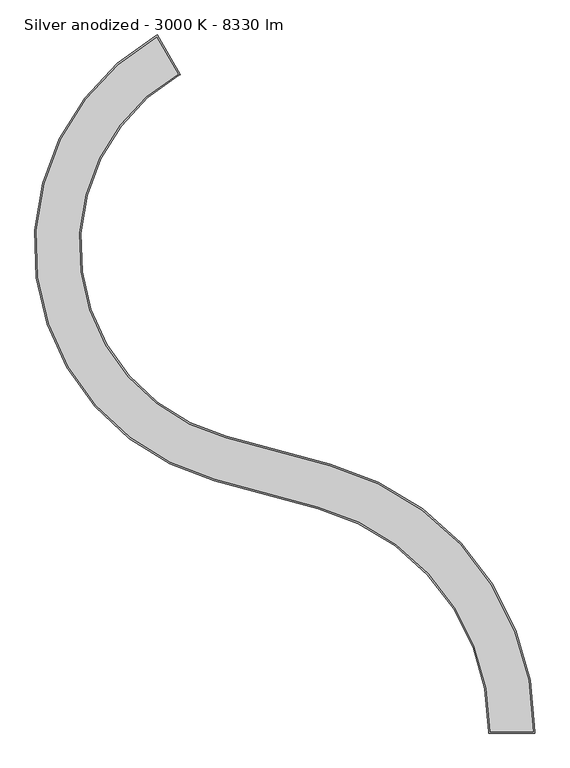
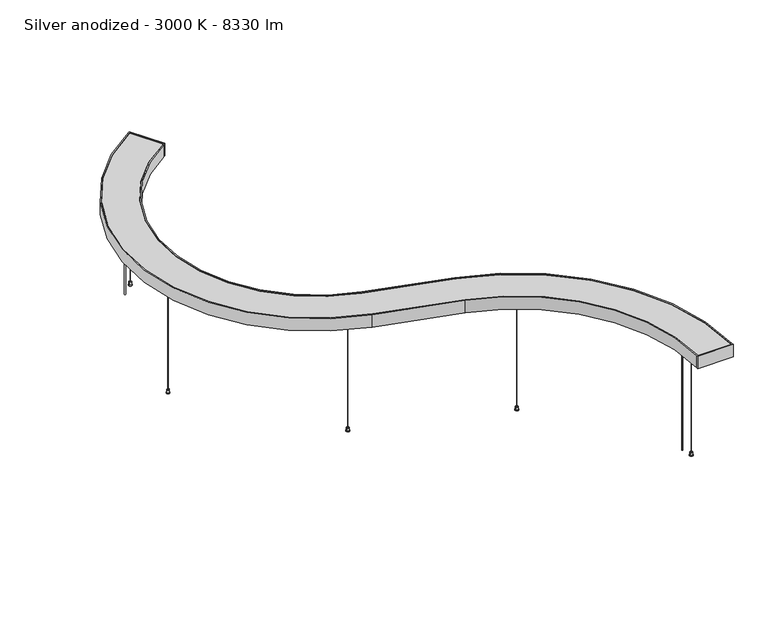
"""IFC4 building model written with IfcOpenShell, lengths in millimetres: light fixture geometry, KLUŚ - MIFOR - MI-SNAKE-04 : Silver anodized - 3000 K - 8330 lm."""

from ifc_helpers import new_model, si_unit, point, frame, frame_2d, origin, origin_with_axes, place, context, project, spatial, polyline, circle_curve, trimmed, segment, composite_curve, outline, extrude, source, transform, mapped, element, save


def silver_anodized_3000_k_8330_lm_0e5ecade(model_context):
    return source(origin(), model_context, "Body", "SweptSolid", [
        extrude(outline(composite_curve([segment(trimmed(circle_curve(frame_2d((-377.3791356, -141.4656241)), 1.75), [point((-375.6291356, -141.4656241))], [point((-379.1291356, -141.4656241))], False, "CARTESIAN"), True, "CONTINUOUS"), segment(trimmed(circle_curve(frame_2d((-377.3791356, -141.4656241)), 1.75), [point((-379.1291356, -141.4656241))], [point((-375.6291356, -141.4656241))], False, "CARTESIAN"), True, "CONTINUOUS")], self_intersect=False)), frame((0.0, 0.0, 500.5), z_axis=(0.0, 0.0, 1.0), x_axis=(1.0, 0.0, 0.0)), (0.0, 0.0, 1.0), 3.5),
        extrude(outline(composite_curve([segment(trimmed(circle_curve(frame_2d((224.4051375, -334.3091632)), 1.75), [point((226.1551375, -334.3091632))], [point((222.6551375, -334.3091632))], False, "CARTESIAN"), True, "CONTINUOUS"), segment(trimmed(circle_curve(frame_2d((224.4051375, -334.3091632)), 1.75), [point((222.6551375, -334.3091632))], [point((226.1551375, -334.3091632))], False, "CARTESIAN"), True, "CONTINUOUS")], self_intersect=False)), frame((0.0, 0.0, 500.5), z_axis=(0.0, 0.0, 1.0), x_axis=(1.0, 0.0, 0.0)), (0.0, 0.0, 1.0), 3.5),
        extrude(outline(composite_curve([segment(trimmed(circle_curve(frame_2d((631.3670888, -903.8545698)), 1.75), [point((633.1170888, -903.8545698))], [point((629.6170888, -903.8545698))], False, "CARTESIAN"), True, "CONTINUOUS"), segment(trimmed(circle_curve(frame_2d((631.3670888, -903.8545698)), 1.75), [point((629.6170888, -903.8545698))], [point((633.1170888, -903.8545698))], False, "CARTESIAN"), True, "CONTINUOUS")], self_intersect=False)), frame((0.0, 0.0, 500.5), z_axis=(0.0, 0.0, 1.0), x_axis=(1.0, 0.0, 0.0)), (0.0, 0.0, 1.0), 3.5),
        extrude(outline(composite_curve([segment(trimmed(circle_curve(frame_2d((-825.2583753, 396.4973734)), 1.75), [point((-823.5083753, 396.4973734))], [point((-827.0083753, 396.4973734))], False, "CARTESIAN"), True, "CONTINUOUS"), segment(trimmed(circle_curve(frame_2d((-825.2583753, 396.4973734)), 1.75), [point((-827.0083753, 396.4973734))], [point((-823.5083753, 396.4973734))], False, "CARTESIAN"), True, "CONTINUOUS")], self_intersect=False)), frame((0.0, 0.0, 500.5), z_axis=(0.0, 0.0, 1.0), x_axis=(1.0, 0.0, 0.0)), (0.0, 0.0, 1.0), 3.5),
        extrude(outline(composite_curve([segment(trimmed(circle_curve(frame_2d((-601.8264693, 1059.8812618)), 1.75), [point((-600.0764693, 1059.8812618))], [point((-603.5764693, 1059.8812618))], False, "CARTESIAN"), True, "CONTINUOUS"), segment(trimmed(circle_curve(frame_2d((-601.8264693, 1059.8812618)), 1.75), [point((-603.5764693, 1059.8812618))], [point((-600.0764693, 1059.8812618))], False, "CARTESIAN"), True, "CONTINUOUS")], self_intersect=False)), frame((0.0, 0.0, 500.5), z_axis=(0.0, 0.0, 1.0), x_axis=(1.0, 0.0, 0.0)), (0.0, 0.0, 1.0), 3.5),
        extrude(outline(composite_curve([segment(trimmed(circle_curve(frame_2d((-377.3791356, -141.4656241)), 5.0), [point((-372.3791356, -141.4656241))], [point((-382.3791356, -141.4656241))], False, "CARTESIAN"), True, "CONTINUOUS"), segment(trimmed(circle_curve(frame_2d((-377.3791356, -141.4656241)), 5.0), [point((-382.3791356, -141.4656241))], [point((-372.3791356, -141.4656241))], False, "CARTESIAN"), True, "CONTINUOUS")], self_intersect=False)), frame((0.0, 0.0, 3.0), z_axis=(0.0, 0.0, 1.0), x_axis=(1.0, 0.0, 0.0)), (0.0, 0.0, 1.0), 12.0),
        extrude(outline(composite_curve([segment(trimmed(circle_curve(frame_2d((-825.2583753, 396.4973734)), 5.0), [point((-820.2583753, 396.4973734))], [point((-830.2583753, 396.4973734))], False, "CARTESIAN"), True, "CONTINUOUS"), segment(trimmed(circle_curve(frame_2d((-825.2583753, 396.4973734)), 5.0), [point((-830.2583753, 396.4973734))], [point((-820.2583753, 396.4973734))], False, "CARTESIAN"), True, "CONTINUOUS")], self_intersect=False)), frame((0.0, 0.0, 3.0), z_axis=(0.0, 0.0, 1.0), x_axis=(1.0, 0.0, 0.0)), (0.0, 0.0, 1.0), 12.0),
        extrude(outline(composite_curve([segment(trimmed(circle_curve(frame_2d((-601.8264693, 1059.8812618)), 5.0), [point((-596.8264693, 1059.8812618))], [point((-606.8264693, 1059.8812618))], False, "CARTESIAN"), True, "CONTINUOUS"), segment(trimmed(circle_curve(frame_2d((-601.8264693, 1059.8812618)), 5.0), [point((-606.8264693, 1059.8812618))], [point((-596.8264693, 1059.8812618))], False, "CARTESIAN"), True, "CONTINUOUS")], self_intersect=False)), frame((0.0, 0.0, 3.0), z_axis=(0.0, 0.0, 1.0), x_axis=(1.0, 0.0, 0.0)), (0.0, 0.0, 1.0), 12.0),
        extrude(outline(composite_curve([segment(trimmed(circle_curve(frame_2d((224.4051375, -334.3091632)), 5.0), [point((229.4051375, -334.3091632))], [point((219.4051375, -334.3091632))], False, "CARTESIAN"), True, "CONTINUOUS"), segment(trimmed(circle_curve(frame_2d((224.4051375, -334.3091632)), 5.0), [point((219.4051375, -334.3091632))], [point((229.4051375, -334.3091632))], False, "CARTESIAN"), True, "CONTINUOUS")], self_intersect=False)), frame((0.0, 0.0, 3.0), z_axis=(0.0, 0.0, 1.0), x_axis=(1.0, 0.0, 0.0)), (0.0, 0.0, 1.0), 12.0),
        extrude(outline(composite_curve([segment(trimmed(circle_curve(frame_2d((631.3670888, -903.8545698)), 5.0), [point((636.3670888, -903.8545698))], [point((626.3670888, -903.8545698))], False, "CARTESIAN"), True, "CONTINUOUS"), segment(trimmed(circle_curve(frame_2d((631.3670888, -903.8545698)), 5.0), [point((626.3670888, -903.8545698))], [point((636.3670888, -903.8545698))], False, "CARTESIAN"), True, "CONTINUOUS")], self_intersect=False)), frame((0.0, 0.0, 3.0), z_axis=(0.0, 0.0, 1.0), x_axis=(1.0, 0.0, 0.0)), (0.0, 0.0, 1.0), 12.0),
        extrude(outline(composite_curve([segment(trimmed(circle_curve(frame_2d((620.2958522, -857.8919727)), 2.5), [point((622.7958522, -857.8919727))], [point((617.7958522, -857.8919727))], False, "CARTESIAN"), True, "CONTINUOUS"), segment(trimmed(circle_curve(frame_2d((620.2958522, -857.8919727)), 2.5), [point((617.7958522, -857.8919727))], [point((622.7958522, -857.8919727))], False, "CARTESIAN"), True, "CONTINUOUS")], self_intersect=False)), origin_with_axes(), (0.0, 0.0, 1.0), 516.0),
        extrude(outline(composite_curve([segment(trimmed(circle_curve(frame_2d((-647.7527813, 1018.929529)), 2.5), [point((-645.2527813, 1018.929529))], [point((-650.2527813, 1018.929529))], False, "CARTESIAN"), True, "CONTINUOUS"), segment(trimmed(circle_curve(frame_2d((-647.7527813, 1018.929529)), 2.5), [point((-650.2527813, 1018.929529))], [point((-645.2527813, 1018.929529))], False, "CARTESIAN"), True, "CONTINUOUS")], self_intersect=False)), origin_with_axes(), (0.0, 0.0, 1.0), 516.0),
        extrude(outline(composite_curve([segment(polyline([(-513.7121029, 1214.6627023), (-443.7121029, 1093.4191458)]), True, "CONTINUOUS"), segment(trimmed(circle_curve(frame_2d((-119.9621029, 532.6676969)), 647.5), [point((-443.7121029, 1093.4191458))], [point((-288.2076701, -92.5919925))], True, "CARTESIAN"), True, "CONTINUOUS"), segment(polyline([(-288.2076701, -92.5919925), (50.6616992, -183.7753364)]), True, "CONTINUOUS"), segment(trimmed(circle_curve(frame_2d((-182.679846, -1050.9545698)), 898.024554), [point((50.6616992, -183.7753364))], [point((715.3447081, -1050.9545698))], False, "CARTESIAN"), True, "CONTINUOUS"), segment(polyline([(715.3447081, -1050.9545698), (575.3447081, -1050.9545698)]), True, "CONTINUOUS"), segment(trimmed(circle_curve(frame_2d((-182.679846, -1050.9545698)), 758.024554), [point((575.3447081, -1050.9545698))], [point((14.2842792, -318.9666205))], True, "CARTESIAN"), True, "CONTINUOUS"), segment(polyline([(14.2842792, -318.9666205), (-324.5850901, -227.7832767)]), True, "CONTINUOUS"), segment(trimmed(circle_curve(frame_2d((-119.9621029, 532.6676969)), 787.5), [point((-324.5850901, -227.7832767))], [point((-513.7121029, 1214.6627023))], False, "CARTESIAN"), True, "CONTINUOUS")], self_intersect=False)), frame((0.0, 0.0, 516.0), z_axis=(0.0, 0.0, 1.0), x_axis=(1.0, 0.0, 0.0)), (0.0, 0.0, 1.0), 2.0),
        extrude(outline(composite_curve([segment(polyline([(-513.7121029, 1214.6627023), (-443.7121029, 1093.4191458)]), True, "CONTINUOUS"), segment(trimmed(circle_curve(frame_2d((-119.9621029, 532.6676969)), 647.5), [point((-443.7121029, 1093.4191458))], [point((-288.2076701, -92.5919925))], True, "CARTESIAN"), True, "CONTINUOUS"), segment(polyline([(-288.2076701, -92.5919925), (50.6616992, -183.7753364)]), True, "CONTINUOUS"), segment(trimmed(circle_curve(frame_2d((-182.679846, -1050.9545698)), 898.024554), [point((50.6616992, -183.7753364))], [point((715.3447081, -1050.9545698))], False, "CARTESIAN"), True, "CONTINUOUS"), segment(polyline([(715.3447081, -1050.9545698), (575.3447081, -1050.9545698)]), True, "CONTINUOUS"), segment(trimmed(circle_curve(frame_2d((-182.679846, -1050.9545698)), 758.024554), [point((575.3447081, -1050.9545698))], [point((14.2842792, -318.9666205))], True, "CARTESIAN"), True, "CONTINUOUS"), segment(polyline([(14.2842792, -318.9666205), (-324.5850901, -227.7832767)]), True, "CONTINUOUS"), segment(trimmed(circle_curve(frame_2d((-119.9621029, 532.6676969)), 787.5), [point((-324.5850901, -227.7832767))], [point((-513.7121029, 1214.6627023))], False, "CARTESIAN"), True, "CONTINUOUS")], self_intersect=False)), frame((0.0, 0.0, 551.0), z_axis=(0.0, 0.0, 1.0), x_axis=(1.0, 0.0, 0.0)), (0.0, 0.0, 1.0), 2.0),
        extrude(outline(composite_curve([segment(polyline([(-286.9084766, -87.7637323), (51.9608928, -178.9470762)]), True, "CONTINUOUS"), segment(trimmed(circle_curve(frame_2d((-182.679846, -1050.9545698)), 903.024554), [point((51.9608928, -178.9470762))], [point((720.3447081, -1050.9545698))], False, "CARTESIAN"), True, "CONTINUOUS"), segment(polyline([(720.3447081, -1050.9545698), (720.3447081, -1055.9545698), (570.3447081, -1055.9545698), (570.3447081, -1050.9545698)]), True, "CONTINUOUS"), segment(trimmed(circle_curve(frame_2d((-182.679846, -1050.9545698)), 753.024554), [point((570.3447081, -1050.9545698))], [point((12.9850857, -323.7948807))], True, "CARTESIAN"), True, "CONTINUOUS"), segment(polyline([(12.9850857, -323.7948807), (-325.8842836, -232.6115368)]), True, "CONTINUOUS"), segment(trimmed(circle_curve(frame_2d((-119.9621029, 532.6676969)), 792.5), [point((-325.8842836, -232.6115368))], [point((-516.2121029, 1218.9928294))], False, "CARTESIAN"), True, "CONTINUOUS"), segment(polyline([(-516.2121029, 1218.9928294), (-511.8819759, 1221.4928294), (-436.8819759, 1091.5890188), (-441.2121029, 1089.0890188)]), True, "CONTINUOUS"), segment(trimmed(circle_curve(frame_2d((-119.9621029, 532.6676969)), 642.5), [point((-441.2121029, 1089.0890188))], [point((-286.9084766, -87.7637323))], True, "CARTESIAN"), True, "CONTINUOUS")], self_intersect=False), holes=[composite_curve([segment(trimmed(circle_curve(frame_2d((-119.9621029, 532.6676969)), 787.5), [point((-513.7121029, 1214.6627023))], [point((-324.5850901, -227.7832767))], True, "CARTESIAN"), True, "CONTINUOUS"), segment(polyline([(-324.5850901, -227.7832767), (14.2842792, -318.9666205)]), True, "CONTINUOUS"), segment(trimmed(circle_curve(frame_2d((-182.679846, -1050.9545698)), 758.024554), [point((14.2842792, -318.9666205))], [point((575.3447081, -1050.9545698))], False, "CARTESIAN"), True, "CONTINUOUS"), segment(polyline([(575.3447081, -1050.9545698), (715.3447081, -1050.9545698)]), True, "CONTINUOUS"), segment(trimmed(circle_curve(frame_2d((-182.679846, -1050.9545698)), 898.024554), [point((715.3447081, -1050.9545698))], [point((50.6616992, -183.7753364))], True, "CARTESIAN"), True, "CONTINUOUS"), segment(polyline([(50.6616992, -183.7753364), (-288.2076701, -92.5919925)]), True, "CONTINUOUS"), segment(trimmed(circle_curve(frame_2d((-119.9621029, 532.6676969)), 647.5), [point((-288.2076701, -92.5919925))], [point((-443.7121029, 1093.4191458))], False, "CARTESIAN"), True, "CONTINUOUS"), segment(polyline([(-443.7121029, 1093.4191458), (-513.7121029, 1214.6627023)]), True, "CONTINUOUS")], self_intersect=False)]), frame((0.0, 0.0, 500.0), z_axis=(0.0, 0.0, 1.0), x_axis=(1.0, 0.0, 0.0)), (0.0, 0.0, 1.0), 55.0),
        extrude(outline(composite_curve([segment(trimmed(circle_curve(frame_2d((-377.3791356, -141.4656241)), 0.5), [point((-376.8791356, -141.4656241))], [point((-377.8791356, -141.4656241))], False, "CARTESIAN"), True, "CONTINUOUS"), segment(trimmed(circle_curve(frame_2d((-377.3791356, -141.4656241)), 0.5), [point((-377.8791356, -141.4656241))], [point((-376.8791356, -141.4656241))], False, "CARTESIAN"), True, "CONTINUOUS")], self_intersect=False)), frame((0.0, 0.0, 15.0), z_axis=(0.0, 0.0, 1.0), x_axis=(1.0, 0.0, 0.0)), (0.0, 0.0, 1.0), 485.5),
        extrude(outline(composite_curve([segment(trimmed(circle_curve(frame_2d((224.4051375, -334.3091632)), 0.5), [point((224.9051375, -334.3091632))], [point((223.9051375, -334.3091632))], False, "CARTESIAN"), True, "CONTINUOUS"), segment(trimmed(circle_curve(frame_2d((224.4051375, -334.3091632)), 0.5), [point((223.9051375, -334.3091632))], [point((224.9051375, -334.3091632))], False, "CARTESIAN"), True, "CONTINUOUS")], self_intersect=False)), frame((0.0, 0.0, 15.0), z_axis=(0.0, 0.0, 1.0), x_axis=(1.0, 0.0, 0.0)), (0.0, 0.0, 1.0), 485.5),
        extrude(outline(composite_curve([segment(trimmed(circle_curve(frame_2d((631.3670888, -903.8545698)), 0.5), [point((631.8670888, -903.8545698))], [point((630.8670888, -903.8545698))], False, "CARTESIAN"), True, "CONTINUOUS"), segment(trimmed(circle_curve(frame_2d((631.3670888, -903.8545698)), 0.5), [point((630.8670888, -903.8545698))], [point((631.8670888, -903.8545698))], False, "CARTESIAN"), True, "CONTINUOUS")], self_intersect=False)), frame((0.0, 0.0, 15.0), z_axis=(0.0, 0.0, 1.0), x_axis=(1.0, 0.0, 0.0)), (0.0, 0.0, 1.0), 485.5),
        extrude(outline(composite_curve([segment(trimmed(circle_curve(frame_2d((-825.2583753, 396.4973734)), 0.5), [point((-824.7583753, 396.4973734))], [point((-825.7583753, 396.4973734))], False, "CARTESIAN"), True, "CONTINUOUS"), segment(trimmed(circle_curve(frame_2d((-825.2583753, 396.4973734)), 0.5), [point((-825.7583753, 396.4973734))], [point((-824.7583753, 396.4973734))], False, "CARTESIAN"), True, "CONTINUOUS")], self_intersect=False)), frame((0.0, 0.0, 15.0), z_axis=(0.0, 0.0, 1.0), x_axis=(1.0, 0.0, 0.0)), (0.0, 0.0, 1.0), 485.5),
        extrude(outline(composite_curve([segment(trimmed(circle_curve(frame_2d((-601.8264693, 1059.8812618)), 0.5), [point((-601.3264693, 1059.8812618))], [point((-602.3264693, 1059.8812618))], False, "CARTESIAN"), True, "CONTINUOUS"), segment(trimmed(circle_curve(frame_2d((-601.8264693, 1059.8812618)), 0.5), [point((-602.3264693, 1059.8812618))], [point((-601.3264693, 1059.8812618))], False, "CARTESIAN"), True, "CONTINUOUS")], self_intersect=False)), frame((0.0, 0.0, 15.0), z_axis=(0.0, 0.0, 1.0), x_axis=(1.0, 0.0, 0.0)), (0.0, 0.0, 1.0), 485.5),
        extrude(outline(composite_curve([segment(trimmed(circle_curve(frame_2d((631.3670888, -903.8545698)), 4.0), [point((635.3670888, -903.8545698))], [point((627.3670888, -903.8545698))], False, "CARTESIAN"), True, "CONTINUOUS"), segment(trimmed(circle_curve(frame_2d((631.3670888, -903.8545698)), 4.0), [point((627.3670888, -903.8545698))], [point((635.3670888, -903.8545698))], False, "CARTESIAN"), True, "CONTINUOUS")], self_intersect=False)), frame((0.0, 0.0, 504.0), z_axis=(0.0, 0.0, 1.0), x_axis=(1.0, 0.0, 0.0)), (0.0, 0.0, 1.0), 12.0),
        extrude(outline(composite_curve([segment(trimmed(circle_curve(frame_2d((224.4051375, -334.3091632)), 4.0), [point((228.4051375, -334.3091632))], [point((220.4051375, -334.3091632))], False, "CARTESIAN"), True, "CONTINUOUS"), segment(trimmed(circle_curve(frame_2d((224.4051375, -334.3091632)), 4.0), [point((220.4051375, -334.3091632))], [point((228.4051375, -334.3091632))], False, "CARTESIAN"), True, "CONTINUOUS")], self_intersect=False)), frame((0.0, 0.0, 504.0), z_axis=(0.0, 0.0, 1.0), x_axis=(1.0, 0.0, 0.0)), (0.0, 0.0, 1.0), 12.0),
        extrude(outline(composite_curve([segment(trimmed(circle_curve(frame_2d((-377.3791356, -141.4656241)), 4.0), [point((-373.3791356, -141.4656241))], [point((-381.3791356, -141.4656241))], False, "CARTESIAN"), True, "CONTINUOUS"), segment(trimmed(circle_curve(frame_2d((-377.3791356, -141.4656241)), 4.0), [point((-381.3791356, -141.4656241))], [point((-373.3791356, -141.4656241))], False, "CARTESIAN"), True, "CONTINUOUS")], self_intersect=False)), frame((0.0, 0.0, 504.0), z_axis=(0.0, 0.0, 1.0), x_axis=(1.0, 0.0, 0.0)), (0.0, 0.0, 1.0), 12.0),
        extrude(outline(composite_curve([segment(trimmed(circle_curve(frame_2d((-825.2583753, 396.4973734)), 4.0), [point((-821.2583753, 396.4973734))], [point((-829.2583753, 396.4973734))], False, "CARTESIAN"), True, "CONTINUOUS"), segment(trimmed(circle_curve(frame_2d((-825.2583753, 396.4973734)), 4.0), [point((-829.2583753, 396.4973734))], [point((-821.2583753, 396.4973734))], False, "CARTESIAN"), True, "CONTINUOUS")], self_intersect=False)), frame((0.0, 0.0, 504.0), z_axis=(0.0, 0.0, 1.0), x_axis=(1.0, 0.0, 0.0)), (0.0, 0.0, 1.0), 12.0),
        extrude(outline(composite_curve([segment(trimmed(circle_curve(frame_2d((-601.8264693, 1059.8812618)), 4.0), [point((-597.8264693, 1059.8812618))], [point((-605.8264693, 1059.8812618))], False, "CARTESIAN"), True, "CONTINUOUS"), segment(trimmed(circle_curve(frame_2d((-601.8264693, 1059.8812618)), 4.0), [point((-605.8264693, 1059.8812618))], [point((-597.8264693, 1059.8812618))], False, "CARTESIAN"), True, "CONTINUOUS")], self_intersect=False)), frame((0.0, 0.0, 504.0), z_axis=(0.0, 0.0, 1.0), x_axis=(1.0, 0.0, 0.0)), (0.0, 0.0, 1.0), 12.0),
        extrude(outline(composite_curve([segment(trimmed(circle_curve(frame_2d((-377.3791356, -141.4656241)), 7.0), [point((-370.3791356, -141.4656241))], [point((-384.3791356, -141.4656241))], False, "CARTESIAN"), True, "CONTINUOUS"), segment(trimmed(circle_curve(frame_2d((-377.3791356, -141.4656241)), 7.0), [point((-384.3791356, -141.4656241))], [point((-370.3791356, -141.4656241))], False, "CARTESIAN"), True, "CONTINUOUS")], self_intersect=False)), origin_with_axes(), (0.0, 0.0, 1.0), 3.0),
        extrude(outline(composite_curve([segment(trimmed(circle_curve(frame_2d((224.4051375, -334.3091632)), 7.0), [point((231.4051375, -334.3091632))], [point((217.4051375, -334.3091632))], False, "CARTESIAN"), True, "CONTINUOUS"), segment(trimmed(circle_curve(frame_2d((224.4051375, -334.3091632)), 7.0), [point((217.4051375, -334.3091632))], [point((231.4051375, -334.3091632))], False, "CARTESIAN"), True, "CONTINUOUS")], self_intersect=False)), origin_with_axes(), (0.0, 0.0, 1.0), 3.0),
        extrude(outline(composite_curve([segment(trimmed(circle_curve(frame_2d((631.3670888, -903.8545698)), 7.0), [point((638.3670888, -903.8545698))], [point((624.3670888, -903.8545698))], False, "CARTESIAN"), True, "CONTINUOUS"), segment(trimmed(circle_curve(frame_2d((631.3670888, -903.8545698)), 7.0), [point((624.3670888, -903.8545698))], [point((638.3670888, -903.8545698))], False, "CARTESIAN"), True, "CONTINUOUS")], self_intersect=False)), origin_with_axes(), (0.0, 0.0, 1.0), 3.0),
        extrude(outline(composite_curve([segment(trimmed(circle_curve(frame_2d((-825.2583753, 396.4973734)), 7.0), [point((-818.2583753, 396.4973734))], [point((-832.2583753, 396.4973734))], False, "CARTESIAN"), True, "CONTINUOUS"), segment(trimmed(circle_curve(frame_2d((-825.2583753, 396.4973734)), 7.0), [point((-832.2583753, 396.4973734))], [point((-818.2583753, 396.4973734))], False, "CARTESIAN"), True, "CONTINUOUS")], self_intersect=False)), origin_with_axes(), (0.0, 0.0, 1.0), 3.0),
        extrude(outline(composite_curve([segment(trimmed(circle_curve(frame_2d((-601.8264693, 1059.8812618)), 7.0), [point((-594.8264693, 1059.8812618))], [point((-608.8264693, 1059.8812618))], False, "CARTESIAN"), True, "CONTINUOUS"), segment(trimmed(circle_curve(frame_2d((-601.8264693, 1059.8812618)), 7.0), [point((-608.8264693, 1059.8812618))], [point((-594.8264693, 1059.8812618))], False, "CARTESIAN"), True, "CONTINUOUS")], self_intersect=False)), origin_with_axes(), (0.0, 0.0, 1.0), 3.0),
    ])


if __name__ == "__main__":
    model = new_model("IFC4")
    model_context = context("Model", 3, world=origin())
    ifc_project = project(units=[si_unit("LENGTHUNIT", "METRE", prefix="MILLI")], contexts=[model_context])
    site = spatial("IfcSite", under=ifc_project)
    building = spatial("IfcBuilding", under=site)
    placement = place(None, origin())
    silver_anodized_3000_k_8330_lm_shape = silver_anodized_3000_k_8330_lm_0e5ecade(model_context)
    element("IfcLightFixture", 1, ObjectType="KLUŚ - MIFOR - MI-SNAKE-04 : Silver anodized - 3000 K - 8330 lm", at=placement, inside=building, context=model_context, shape_type="MappedRepresentation", body=[
        mapped(silver_anodized_3000_k_8330_lm_shape, transform((0.0, 0.0, 0.0), x_axis=(1.0, 0.0, 0.0), y_axis=(0.0, 1.0, 0.0), z_axis=(0.0, 0.0, 1.0))),
    ])
    save(model, "model.ifc")
